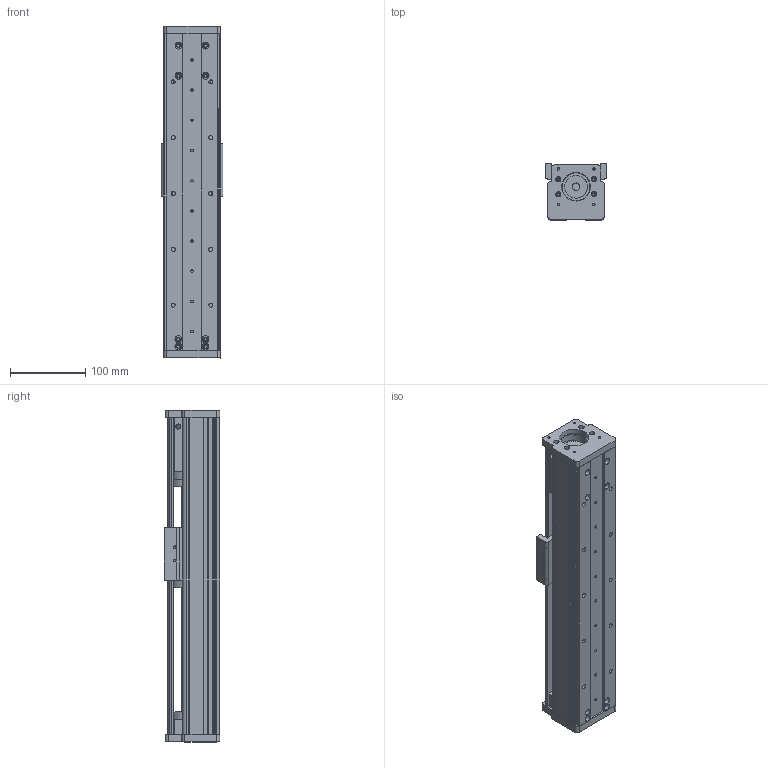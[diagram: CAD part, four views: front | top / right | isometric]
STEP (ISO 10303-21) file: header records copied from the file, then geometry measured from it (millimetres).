
FILE_DESCRIPTION (( 'STEP AP203' ), '1' );
FILE_NAME ('CF75-P200.STEP', '2016-03-10T05:33:42', ( 'Sky123.Org' ), ( 'Sky123.Org' ), 'SwSTEP 2.0', 'SolidWorks 2015', '' );
FILE_SCHEMA (( 'CONFIG_CONTROL_DESIGN' ));
Length unit declared in the file: millimetre
Products named in the file (17): SFU1605-3; 75嘐隅釱; 75粣創裔啣; 75支持侧板（2016.01.24改进）; 75滅袉蝶菜; 75盓厥釱; 75裔啣; angular contact ball bearings gb_Rolling bearings S7001 GB 292-94; SFU1616幗紩佪裝; 坶踡蹟譫M12-1; CF75-300俴最臏倰第; 75賑雄啣; MGW12H絳寢-俴最300; CF75-P200; 30-42薊粣ん; MGW12賑輸; 75-57祭輛萇儂假蚾啣
Assembly tree (19 placements, depth 2):
  CF75-P200
    MGW12賑輸
    SFU1605-3
    75粣創裔啣
    75滅袉蝶菜  x2
    75裔啣
    SFU1616幗紩佪裝
    CF75-300俴最臏倰第
    MGW12H絳寢-俴最300
    30-42薊粣ん
    75-57祭輛萇儂假蚾啣
    75嘐隅釱
    75支持侧板（2016.01.24改进）
    75盓厥釱
    angular contact ball bearings gb_Rolling bearings S7001 GB 292-94  x3
    坶踡蹟譫M12-1
    75賑雄啣
Bounding box: 82.03 x 73.93 x 440.03 mm (x, y, z)
Volume: 1193505.1 mm3; surface area: 433939.2 mm2
Topology: 19 solids, 19 shells, 1343 faces, 4219 edges, 2808 vertices
Faces by surface type: cylinder 637, plane 460, torus 159, sphere 84, bspline 3
Entity records: 51492 total; most frequent: CARTESIAN_POINT 20394, ORIENTED_EDGE 6314, DIRECTION 6055, EDGE_CURVE 3157, AXIS2_PLACEMENT_3D 2323, VERTEX_POINT 2090, VECTOR 1409, LINE 1409
